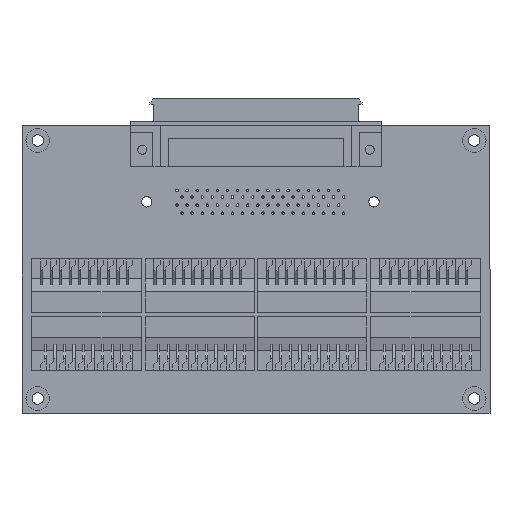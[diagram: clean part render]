
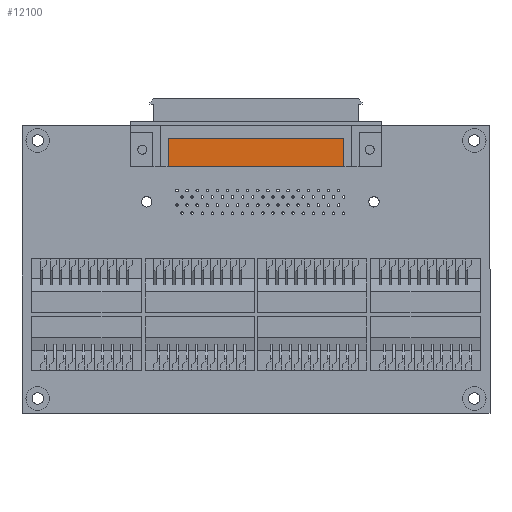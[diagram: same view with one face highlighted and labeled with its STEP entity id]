
A CAD part, top view. The second image highlights one B-rep face of the part: STEP entity #12100.
In plain terms, the highlighted planar face has unit normal (0, 0, 1).
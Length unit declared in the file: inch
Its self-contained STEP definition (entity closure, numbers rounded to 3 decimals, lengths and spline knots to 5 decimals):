
#1873 = ORIENTED_EDGE ( 'NONE', *, *, #6901, .T. ) ;
#2428 = VECTOR ( 'NONE', #4481, 39.37008 ) ;
#2706 = EDGE_CURVE ( 'NONE', #10459, #10347, #7384, .T. ) ;
#3088 = VECTOR ( 'NONE', #12079, 39.37008 ) ;
#3533 = ORIENTED_EDGE ( 'NONE', *, *, #2706, .T. ) ;
#4364 = CARTESIAN_POINT ( 'NONE',  ( 0.88, -0.0535, 0.225 ) ) ;
#4481 = DIRECTION ( 'NONE',  ( -1., 0., 0. ) ) ;
#4546 = CARTESIAN_POINT ( 'NONE',  ( 0., 0., 0.225 ) ) ;
#4666 = VECTOR ( 'NONE', #10520, 39.37008 ) ;
#4840 = ORIENTED_EDGE ( 'NONE', *, *, #14142, .T. ) ;
#5416 = CARTESIAN_POINT ( 'NONE',  ( -0.88, 0.2275, 0.225 ) ) ;
#5678 = EDGE_CURVE ( 'NONE', #6601, #12609, #11734, .T. ) ;
#6013 = ORIENTED_EDGE ( 'NONE', *, *, #5678, .T. ) ;
#6601 = VERTEX_POINT ( 'NONE', #11695 ) ;
#6802 = EDGE_LOOP ( 'NONE', ( #6013, #1873, #3533, #4840 ) ) ;
#6901 = EDGE_CURVE ( 'NONE', #12609, #10459, #10244, .T. ) ;
#7384 = LINE ( 'NONE', #10729, #4666 ) ;
#7626 = LINE ( 'NONE', #4364, #3088 ) ;
#7829 = CARTESIAN_POINT ( 'NONE',  ( 0.88, 0.2275, 0.225 ) ) ;
#8487 = CARTESIAN_POINT ( 'NONE',  ( -0.88, -0.0535, 0.225 ) ) ;
#9000 = AXIS2_PLACEMENT_3D ( 'NONE', #4546, #13692, #10065 ) ;
#9198 = FACE_OUTER_BOUND ( 'NONE', #6802, .T. ) ;
#9324 = DIRECTION ( 'NONE',  ( 0., 1., 0. ) ) ;
#9485 = VECTOR ( 'NONE', #9324, 39.37008 ) ;
#10065 = DIRECTION ( 'NONE',  ( -1., 0., 0. ) ) ;
#10244 = LINE ( 'NONE', #7829, #2428 ) ;
#10347 = VERTEX_POINT ( 'NONE', #8487 ) ;
#10459 = VERTEX_POINT ( 'NONE', #5416 ) ;
#10520 = DIRECTION ( 'NONE',  ( 0., -1., 0. ) ) ;
#10729 = CARTESIAN_POINT ( 'NONE',  ( -0.88, 0.2275, 0.225 ) ) ;
#11695 = CARTESIAN_POINT ( 'NONE',  ( 0.88, -0.0535, 0.225 ) ) ;
#11734 = LINE ( 'NONE', #12949, #9485 ) ;
#12079 = DIRECTION ( 'NONE',  ( 1., 0., 0. ) ) ;
#12100 = ADVANCED_FACE ( 'NONE', ( #9198 ), #12389, .F. ) ;
#12389 = PLANE ( 'NONE',  #9000 ) ;
#12609 = VERTEX_POINT ( 'NONE', #13678 ) ;
#12949 = CARTESIAN_POINT ( 'NONE',  ( 0.88, 0.2275, 0.225 ) ) ;
#13678 = CARTESIAN_POINT ( 'NONE',  ( 0.88, 0.2275, 0.225 ) ) ;
#13692 = DIRECTION ( 'NONE',  ( 0., 0., -1. ) ) ;
#14142 = EDGE_CURVE ( 'NONE', #10347, #6601, #7626, .T. ) ;
